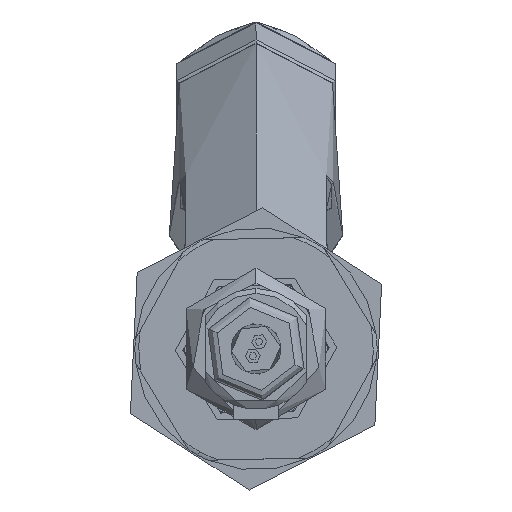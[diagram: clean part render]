
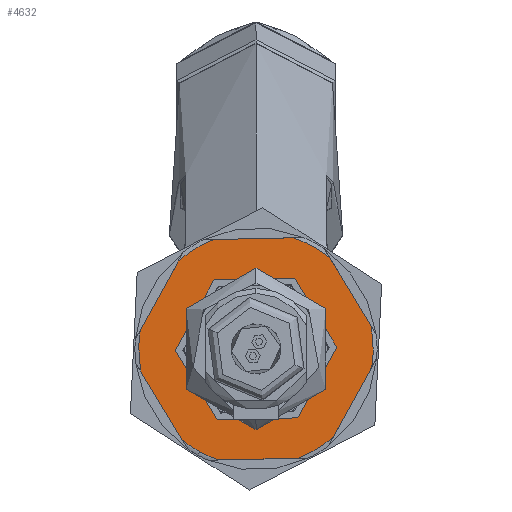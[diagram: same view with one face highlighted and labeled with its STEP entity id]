
A CAD part, front view. The second image highlights one B-rep face of the part: STEP entity #4632.
In plain terms, the highlighted planar face has unit normal (0, -1, 0) as drawn and (0, 0, -1) by its records, which use the part's own axes.
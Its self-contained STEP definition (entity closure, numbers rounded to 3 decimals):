
#187 = AXIS2_PLACEMENT_3D ( 'NONE', #710, #9959, #3664 ) ;
#197 = ORIENTED_EDGE ( 'NONE', *, *, #359, .F. ) ;
#203 = EDGE_CURVE ( 'NONE', #5278, #5295, #1677, .T. ) ;
#324 = ORIENTED_EDGE ( 'NONE', *, *, #1595, .F. ) ;
#359 = EDGE_CURVE ( 'NONE', #5295, #9981, #2652, .T. ) ;
#501 = ORIENTED_EDGE ( 'NONE', *, *, #10381, .F. ) ;
#628 = VECTOR ( 'NONE', #10195, 1000. ) ;
#669 = DIRECTION ( 'NONE',  ( 0., 0., -1. ) ) ;
#710 = CARTESIAN_POINT ( 'NONE',  ( 0., 0., 0. ) ) ;
#1037 = EDGE_LOOP ( 'NONE', ( #7979, #324 ) ) ;
#1226 = DIRECTION ( 'NONE',  ( -0.5, 0.866, 0. ) ) ;
#1408 = CARTESIAN_POINT ( 'NONE',  ( -3.944, 10.925, 0. ) ) ;
#1595 = EDGE_CURVE ( 'NONE', #2713, #7781, #8819, .T. ) ;
#1646 = FACE_BOUND ( 'NONE', #1037, .T. ) ;
#1677 = CIRCLE ( 'NONE', #8094, 11.615 ) ;
#1693 = DIRECTION ( 'NONE',  ( 0., 0., 1. ) ) ;
#1715 = ORIENTED_EDGE ( 'NONE', *, *, #10575, .F. ) ;
#1813 = CARTESIAN_POINT ( 'NONE',  ( -6.308, -10.925, 0. ) ) ;
#1823 = VERTEX_POINT ( 'NONE', #4938 ) ;
#1871 = CARTESIAN_POINT ( 'NONE',  ( -7.489, -8.878, 0. ) ) ;
#1976 = DIRECTION ( 'NONE',  ( -1., 0., 0. ) ) ;
#1999 = AXIS2_PLACEMENT_3D ( 'NONE', #4528, #669, #9189 ) ;
#2261 = ORIENTED_EDGE ( 'NONE', *, *, #10523, .F. ) ;
#2628 = CARTESIAN_POINT ( 'NONE',  ( 0., 0., 0. ) ) ;
#2652 = LINE ( 'NONE', #6363, #11983 ) ;
#2713 = VERTEX_POINT ( 'NONE', #8692 ) ;
#2804 = VERTEX_POINT ( 'NONE', #8003 ) ;
#2921 = ORIENTED_EDGE ( 'NONE', *, *, #8931, .F. ) ;
#3138 = CARTESIAN_POINT ( 'NONE',  ( -11.615, 0., 0. ) ) ;
#3473 = EDGE_CURVE ( 'NONE', #9981, #1823, #6447, .T. ) ;
#3540 = PLANE ( 'NONE',  #10718 ) ;
#3645 = EDGE_CURVE ( 'NONE', #8252, #5931, #6040, .T. ) ;
#3664 = DIRECTION ( 'NONE',  ( -1., 0., 0. ) ) ;
#3865 = CARTESIAN_POINT ( 'NONE',  ( 6.308, -10.925, 0. ) ) ;
#3953 = VERTEX_POINT ( 'NONE', #8335 ) ;
#3955 = AXIS2_PLACEMENT_3D ( 'NONE', #2628, #7324, #6342 ) ;
#3957 = CARTESIAN_POINT ( 'NONE',  ( 0., 0., 0. ) ) ;
#3978 = VERTEX_POINT ( 'NONE', #12052 ) ;
#4257 = VERTEX_POINT ( 'NONE', #4527 ) ;
#4278 = VERTEX_POINT ( 'NONE', #7342 ) ;
#4358 = EDGE_CURVE ( 'NONE', #3978, #11729, #6600, .T. ) ;
#4488 = ORIENTED_EDGE ( 'NONE', *, *, #3473, .F. ) ;
#4527 = CARTESIAN_POINT ( 'NONE',  ( 7.489, 8.878, 0. ) ) ;
#4528 = CARTESIAN_POINT ( 'NONE',  ( 0., 0., 0. ) ) ;
#4619 = ORIENTED_EDGE ( 'NONE', *, *, #3645, .F. ) ;
#4632 = ADVANCED_FACE ( 'NONE', ( #1646, #7254 ), #3540, .F. ) ;
#4831 = CARTESIAN_POINT ( 'NONE',  ( 0., 0., 0. ) ) ;
#4889 = LINE ( 'NONE', #9607, #7694 ) ;
#4938 = CARTESIAN_POINT ( 'NONE',  ( -3.944, -10.925, 0. ) ) ;
#5109 = CIRCLE ( 'NONE', #3955, 8. ) ;
#5218 = LINE ( 'NONE', #9030, #11748 ) ;
#5278 = VERTEX_POINT ( 'NONE', #3138 ) ;
#5289 = ORIENTED_EDGE ( 'NONE', *, *, #4358, .F. ) ;
#5295 = VERTEX_POINT ( 'NONE', #8809 ) ;
#5321 = ORIENTED_EDGE ( 'NONE', *, *, #9984, .F. ) ;
#5344 = ORIENTED_EDGE ( 'NONE', *, *, #203, .F. ) ;
#5410 = DIRECTION ( 'NONE',  ( -1., 0., 0. ) ) ;
#5554 = EDGE_CURVE ( 'NONE', #1823, #3953, #6385, .T. ) ;
#5615 = CARTESIAN_POINT ( 'NONE',  ( 11.433, 2.047, 0. ) ) ;
#5776 = DIRECTION ( 'NONE',  ( -1., 0., 0. ) ) ;
#5838 = AXIS2_PLACEMENT_3D ( 'NONE', #3957, #10310, #5776 ) ;
#5931 = VERTEX_POINT ( 'NONE', #7353 ) ;
#6040 = CIRCLE ( 'NONE', #5838, 11.615 ) ;
#6137 = CARTESIAN_POINT ( 'NONE',  ( 0., 0., 0. ) ) ;
#6205 = DIRECTION ( 'NONE',  ( -1., 0., 0. ) ) ;
#6253 = CARTESIAN_POINT ( 'NONE',  ( 11.433, -2.047, 0. ) ) ;
#6270 = ORIENTED_EDGE ( 'NONE', *, *, #5554, .F. ) ;
#6342 = DIRECTION ( 'NONE',  ( 1., 0., 0. ) ) ;
#6363 = CARTESIAN_POINT ( 'NONE',  ( -12.615, 0., 0. ) ) ;
#6385 = LINE ( 'NONE', #1813, #7906 ) ;
#6447 = CIRCLE ( 'NONE', #187, 11.615 ) ;
#6559 = DIRECTION ( 'NONE',  ( -1., 0., 0. ) ) ;
#6600 = LINE ( 'NONE', #3865, #7237 ) ;
#6791 = DIRECTION ( 'NONE',  ( 0., 0., 1. ) ) ;
#7124 = CIRCLE ( 'NONE', #11794, 11.615 ) ;
#7132 = DIRECTION ( 'NONE',  ( -1., 0., 0. ) ) ;
#7237 = VECTOR ( 'NONE', #11414, 1000. ) ;
#7254 = FACE_OUTER_BOUND ( 'NONE', #8056, .T. ) ;
#7324 = DIRECTION ( 'NONE',  ( 0., 0., -1. ) ) ;
#7342 = CARTESIAN_POINT ( 'NONE',  ( 3.944, 10.925, 0. ) ) ;
#7353 = CARTESIAN_POINT ( 'NONE',  ( -7.489, 8.878, 0. ) ) ;
#7598 = ORIENTED_EDGE ( 'NONE', *, *, #11003, .F. ) ;
#7694 = VECTOR ( 'NONE', #1226, 1000. ) ;
#7781 = VERTEX_POINT ( 'NONE', #9518 ) ;
#7873 = CIRCLE ( 'NONE', #10602, 11.615 ) ;
#7906 = VECTOR ( 'NONE', #10122, 1000. ) ;
#7979 = ORIENTED_EDGE ( 'NONE', *, *, #11090, .F. ) ;
#8003 = CARTESIAN_POINT ( 'NONE',  ( -11.433, 2.047, 0. ) ) ;
#8056 = EDGE_LOOP ( 'NONE', ( #4488, #197, #5344, #2921, #7598, #4619, #9177, #1715, #2261, #5321, #5289, #501, #6270 ) ) ;
#8094 = AXIS2_PLACEMENT_3D ( 'NONE', #6137, #1693, #5410 ) ;
#8252 = VERTEX_POINT ( 'NONE', #1408 ) ;
#8290 = CIRCLE ( 'NONE', #8484, 11.615 ) ;
#8335 = CARTESIAN_POINT ( 'NONE',  ( 3.944, -10.925, 0. ) ) ;
#8484 = AXIS2_PLACEMENT_3D ( 'NONE', #4831, #6791, #1976 ) ;
#8692 = CARTESIAN_POINT ( 'NONE',  ( -8., 0., 0. ) ) ;
#8758 = DIRECTION ( 'NONE',  ( 0., 0., 1. ) ) ;
#8809 = CARTESIAN_POINT ( 'NONE',  ( -11.433, -2.047, 0. ) ) ;
#8819 = CIRCLE ( 'NONE', #1999, 8. ) ;
#8931 = EDGE_CURVE ( 'NONE', #2804, #5278, #7873, .T. ) ;
#9030 = CARTESIAN_POINT ( 'NONE',  ( 6.308, 10.925, 0. ) ) ;
#9099 = DIRECTION ( 'NONE',  ( 0., 0., 1. ) ) ;
#9177 = ORIENTED_EDGE ( 'NONE', *, *, #11354, .F. ) ;
#9189 = DIRECTION ( 'NONE',  ( 1., 0., 0. ) ) ;
#9219 = DIRECTION ( 'NONE',  ( 1., 0., 0. ) ) ;
#9518 = CARTESIAN_POINT ( 'NONE',  ( 8., 0., 0. ) ) ;
#9607 = CARTESIAN_POINT ( 'NONE',  ( 12.615, 0., 0. ) ) ;
#9959 = DIRECTION ( 'NONE',  ( 0., 0., 1. ) ) ;
#9981 = VERTEX_POINT ( 'NONE', #1871 ) ;
#9984 = EDGE_CURVE ( 'NONE', #11729, #10932, #11015, .T. ) ;
#10122 = DIRECTION ( 'NONE',  ( 1., 0., 0. ) ) ;
#10131 = CARTESIAN_POINT ( 'NONE',  ( 0., 0., 0. ) ) ;
#10195 = DIRECTION ( 'NONE',  ( -0.5, -0.866, 0. ) ) ;
#10310 = DIRECTION ( 'NONE',  ( 0., 0., 1. ) ) ;
#10381 = EDGE_CURVE ( 'NONE', #3953, #3978, #7124, .T. ) ;
#10428 = AXIS2_PLACEMENT_3D ( 'NONE', #10964, #11990, #6559 ) ;
#10523 = EDGE_CURVE ( 'NONE', #10932, #4257, #4889, .T. ) ;
#10575 = EDGE_CURVE ( 'NONE', #4257, #4278, #8290, .T. ) ;
#10602 = AXIS2_PLACEMENT_3D ( 'NONE', #11759, #9099, #7132 ) ;
#10710 = CARTESIAN_POINT ( 'NONE',  ( 0., 0., 0. ) ) ;
#10718 = AXIS2_PLACEMENT_3D ( 'NONE', #10131, #10975, #9219 ) ;
#10932 = VERTEX_POINT ( 'NONE', #5615 ) ;
#10964 = CARTESIAN_POINT ( 'NONE',  ( 0., 0., 0. ) ) ;
#10975 = DIRECTION ( 'NONE',  ( 0., 0., 1. ) ) ;
#11003 = EDGE_CURVE ( 'NONE', #5931, #2804, #11832, .T. ) ;
#11015 = CIRCLE ( 'NONE', #10428, 11.615 ) ;
#11071 = DIRECTION ( 'NONE',  ( 0.5, -0.866, 0. ) ) ;
#11090 = EDGE_CURVE ( 'NONE', #7781, #2713, #5109, .T. ) ;
#11354 = EDGE_CURVE ( 'NONE', #4278, #8252, #5218, .T. ) ;
#11414 = DIRECTION ( 'NONE',  ( 0.5, 0.866, 0. ) ) ;
#11729 = VERTEX_POINT ( 'NONE', #6253 ) ;
#11736 = DIRECTION ( 'NONE',  ( -1., 0., 0. ) ) ;
#11748 = VECTOR ( 'NONE', #6205, 1000. ) ;
#11759 = CARTESIAN_POINT ( 'NONE',  ( 0., 0., 0. ) ) ;
#11773 = CARTESIAN_POINT ( 'NONE',  ( -6.308, 10.925, 0. ) ) ;
#11794 = AXIS2_PLACEMENT_3D ( 'NONE', #10710, #8758, #11736 ) ;
#11832 = LINE ( 'NONE', #11773, #628 ) ;
#11983 = VECTOR ( 'NONE', #11071, 1000. ) ;
#11990 = DIRECTION ( 'NONE',  ( 0., 0., 1. ) ) ;
#12052 = CARTESIAN_POINT ( 'NONE',  ( 7.489, -8.878, 0. ) ) ;
